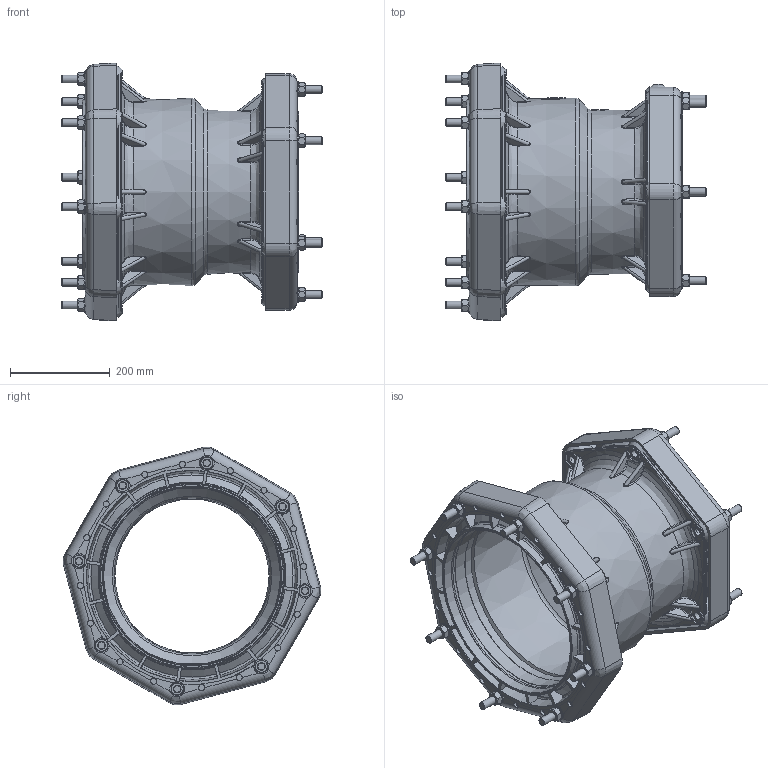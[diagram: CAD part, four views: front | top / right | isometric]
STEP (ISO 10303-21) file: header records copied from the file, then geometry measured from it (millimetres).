
FILE_DESCRIPTION((''),'2;1');
FILE_NAME('P:\Fastrack\54361_VIKING JOHNSON 3D\ULTRAGRIP\Component Parts\Components Built up\Stepped Coupling Assembly\300-350MM-Ultragrip-Stepped-Coupling-Assembly-A.stp','2014-09-08T12:16:08',('raris'),(''),'Autodesk Inventor 2008','Autodesk Inventor 2008','');
FILE_SCHEMA(('AUTOMOTIVE_DESIGN { 1 0 10303 214 1 1 1 1 }'));
Length unit declared in the file: inch
Products named in the file (2): 300-350MM-Ultragrip-Stepped-Coupling-Assembly; 300-350MM-Ultragrip-Stepped-Coupling-Assembly_2
Assembly tree (1 placements, depth 2):
  300-350MM-Ultragrip-Stepped-Coupling-Assembly
    300-350MM-Ultragrip-Stepped-Coupling-Assembly_2
Bounding box: 524 x 517.94 x 517.94 mm (x, y, z)
Volume: 10568923.2 mm3; surface area: 2308652.4 mm2
Topology: 1 solids, 1 shells, 3250 faces, 8872 edges, 5662 vertices
Faces by surface type: plane 1229, cone 725, bspline 563, cylinder 540, torus 193
Full cylindrical faces by diameter (mm): 12.183 x28, 13 x1, 15.8 x28, 16 x14, 30 x14, 36 x14, 309.5 x1, 311.5 x2, 321.5 x1, 355.5 x1, 357.5 x2, 377.5 x1
Entity records: 142021 total; most frequent: CARTESIAN_POINT 59168, ORIENTED_EDGE 17224, DIRECTION 16423, EDGE_CURVE 8612, AXIS2_PLACEMENT_3D 6478, VERTEX_POINT 5584, EDGE_LOOP 3576, VECTOR 3467
